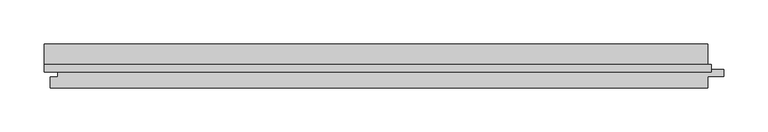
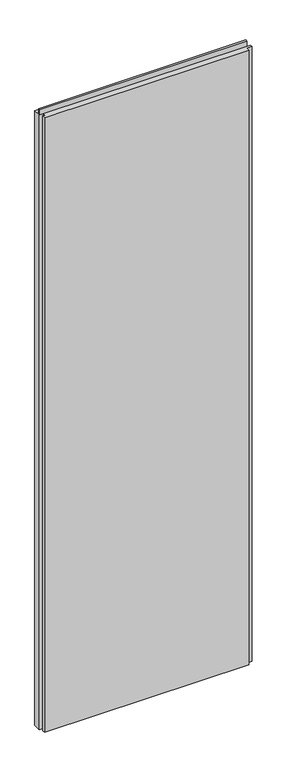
"""IFC4 building model written with IfcOpenShell, lengths in millimetres: plate geometry, Trimo_Qbiss Screen_Normal Panel-VERTICAL : HR - FB."""

from ifc_helpers import new_model, si_unit, frame, origin, place, context, project, spatial, polyline, outline, extrude, source, transform, mapped, element, save


def plate_576f8770(model_context):
    return source(origin(), model_context, "Body", "SweptSolid", [
        extrude(outline(polyline([(-425.0, 93.9), (-425.0, 102.6), (333.0, 102.6), (333.0, 93.9), (-425.0, 93.9)])), frame((0.0, 0.0, 2390.5), z_axis=(0.0, 0.0, 1.0), x_axis=(1.0, 0.0, 0.0)), (0.0, 0.0, 1.0), 19.0),
        extrude(outline(polyline([(329.0, 97.0), (347.5, 97.0), (347.5, 89.0), (329.0, 89.0), (329.0, 76.0), (-418.0, 76.0), (-418.0, 88.0), (-409.5, 88.0), (-409.5, 98.0), (-425.0, 98.0), (-425.0, 126.0), (329.0, 126.0), (329.0, 97.0)])), frame((0.0, 0.0, 12.5), z_axis=(0.0, 0.0, 1.0), x_axis=(1.0, 0.0, 0.0)), (0.0, 0.0, 1.0), 2375.0),
    ])


if __name__ == "__main__":
    model = new_model("IFC4")
    model_context = context("Model", 3, world=origin())
    ifc_project = project(units=[si_unit("LENGTHUNIT", "METRE", prefix="MILLI")], contexts=[model_context])
    site = spatial("IfcSite", under=ifc_project)
    building = spatial("IfcBuilding", under=site)
    placement = place(None, origin())
    plate_shape = plate_576f8770(model_context)
    element("IfcPlate", 1, ObjectType="Trimo_Qbiss Screen_Normal Panel-VERTICAL : HR - FB", at=placement, inside=building, context=model_context, shape_type="MappedRepresentation", body=[
        mapped(plate_shape, transform((0.0, 0.0, 0.0), x_axis=(1.0, 0.0, 0.0), y_axis=(0.0, 1.0, 0.0), z_axis=(0.0, 0.0, 1.0))),
    ])
    save(model, "model.ifc")
